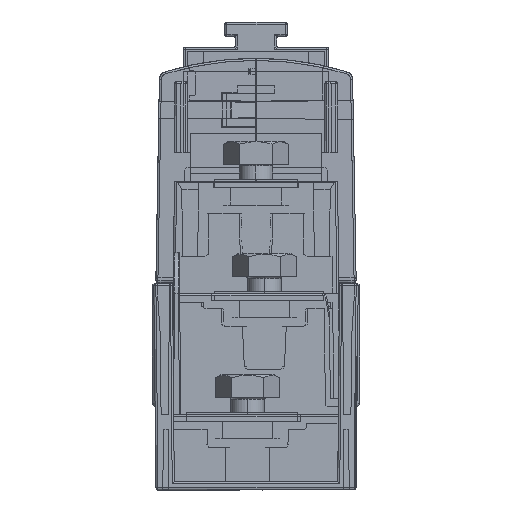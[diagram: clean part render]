
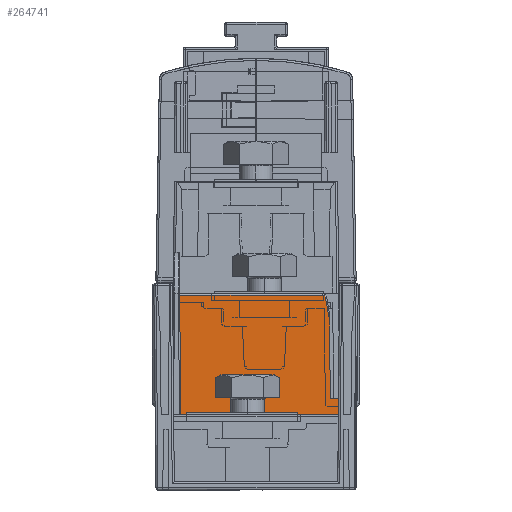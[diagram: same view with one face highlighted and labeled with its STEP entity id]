
A CAD part, left-side view. The second image highlights one B-rep face of the part: STEP entity #264741.
In plain terms, the highlighted planar face has unit normal (-1, 0, 0.009).
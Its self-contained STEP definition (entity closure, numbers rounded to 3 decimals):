
#50141 = VERTEX_POINT ( 'NONE', #272803 ) ;
#50438 = VERTEX_POINT ( 'NONE', #273071 ) ;
#50533 = VERTEX_POINT ( 'NONE', #273197 ) ;
#50587 = VERTEX_POINT ( 'NONE', #273266 ) ;
#50738 = VERTEX_POINT ( 'NONE', #273467 ) ;
#50750 = VERTEX_POINT ( 'NONE', #273499 ) ;
#50776 = VERTEX_POINT ( 'NONE', #273529 ) ;
#67598 = VERTEX_POINT ( 'NONE', #274105 ) ;
#68269 = VERTEX_POINT ( 'NONE', #274631 ) ;
#111235 = PLANE ( 'NONE',  #114538 ) ;
#111293 = FACE_OUTER_BOUND ( 'NONE', #292483, .T. ) ;
#111326 = CARTESIAN_POINT ( 'NONE',  ( -152., 19.8, 28. ) ) ;
#111329 = DIRECTION ( 'NONE',  ( -1., 0., 0.009 ) ) ;
#111332 = DIRECTION ( 'NONE',  ( 0.009, 0., 1. ) ) ;
#111677 = CARTESIAN_POINT ( 'NONE',  ( -152.266, -4.4, -2.5 ) ) ;
#114538 = AXIS2_PLACEMENT_3D ( 'NONE', #111326, #111329, #111332 ) ;
#118057 = CARTESIAN_POINT ( 'NONE',  ( -152.218, -17.8, 3. ) ) ;
#118074 = CARTESIAN_POINT ( 'NONE',  ( -152.218, -22.2, 3. ) ) ;
#118364 = CARTESIAN_POINT ( 'NONE',  ( -152.253, -4.413, -1. ) ) ;
#118775 = CARTESIAN_POINT ( 'NONE',  ( -152.253, -22.165, -1. ) ) ;
#118944 = CARTESIAN_POINT ( 'NONE',  ( -152.266, 0.352, -2.5 ) ) ;
#125745 = LINE ( 'NONE', #125752, #131624 ) ;
#125752 = CARTESIAN_POINT ( 'NONE',  ( -152.22, -22.198, 2.744 ) ) ;
#125756 = DIRECTION ( 'NONE',  ( -0.009, 0.009, -1. ) ) ;
#126855 = CARTESIAN_POINT ( 'NONE',  ( -152.008, -16.65, 27.124 ) ) ;
#126883 = CARTESIAN_POINT ( 'NONE',  ( -152.005, -16.589, 27.474 ) ) ;
#126887 = CARTESIAN_POINT ( 'NONE',  ( -152.003, -16.316, 27.703 ) ) ;
#126892 = CARTESIAN_POINT ( 'NONE',  ( -152.003, -15.961, 27.703 ) ) ;
#126911 = LINE ( 'NONE', #126914, #131961 ) ;
#126914 = CARTESIAN_POINT ( 'NONE',  ( -152.003, 19.8, 27.703 ) ) ;
#126918 = DIRECTION ( 'NONE',  ( 0., 1., 0. ) ) ;
#127716 = LINE ( 'NONE', #127727, #130017 ) ;
#127727 = CARTESIAN_POINT ( 'NONE',  ( -151.999, 8.667, 28.097 ) ) ;
#127731 = DIRECTION ( 'NONE',  ( 0.009, 0.009, 1. ) ) ;
#128753 = LINE ( 'NONE', #128874, #130270 ) ;
#128874 = CARTESIAN_POINT ( 'NONE',  ( -152., 18.3, 28. ) ) ;
#128888 = DIRECTION ( 'NONE',  ( -0.009, -0.009, -1. ) ) ;
#129263 = CARTESIAN_POINT ( 'NONE',  ( -152.267, 0.9, -2.596 ) ) ;
#129267 = CARTESIAN_POINT ( 'NONE',  ( -152.266, 0.352, -2.5 ) ) ;
#129306 = CARTESIAN_POINT ( 'NONE',  ( -152.267, 1.45, -2.647 ) ) ;
#129308 = CARTESIAN_POINT ( 'NONE',  ( -152.267, 2., -2.647 ) ) ;
#129326 = LINE ( 'NONE', #129330, #132427 ) ;
#129330 = CARTESIAN_POINT ( 'NONE',  ( -152.267, -4.399, -2.576 ) ) ;
#129334 = DIRECTION ( 'NONE',  ( 0.009, -0.009, 1. ) ) ;
#129812 = VECTOR ( 'NONE', #132921, 1000. ) ;
#130017 = VECTOR ( 'NONE', #127731, 1000. ) ;
#130270 = VECTOR ( 'NONE', #128888, 1000. ) ;
#131624 = VECTOR ( 'NONE', #125756, 1000. ) ;
#131835 = LINE ( 'NONE', #131905, #136423 ) ;
#131897 = LINE ( 'NONE', #131899, #136424 ) ;
#131899 = CARTESIAN_POINT ( 'NONE',  ( -151.997, -17.579, 28.326 ) ) ;
#131903 = DIRECTION ( 'NONE',  ( 0.009, 0.009, 1. ) ) ;
#131905 = CARTESIAN_POINT ( 'NONE',  ( -152.008, -16.651, 27.122 ) ) ;
#131907 = DIRECTION ( 'NONE',  ( 0.009, 0.174, 0.985 ) ) ;
#131961 = VECTOR ( 'NONE', #126918, 1000. ) ;
#132427 = VECTOR ( 'NONE', #129334, 1000. ) ;
#132918 = LINE ( 'NONE', #132920, #129812 ) ;
#132920 = CARTESIAN_POINT ( 'NONE',  ( -152.253, 66.109, -1. ) ) ;
#132921 = DIRECTION ( 'NONE',  ( 0., -1., 0. ) ) ;
#136423 = VECTOR ( 'NONE', #131907, 1000. ) ;
#136424 = VECTOR ( 'NONE', #131903, 1000. ) ;
#148138 = CARTESIAN_POINT ( 'NONE',  ( -152.267, 2.275, -2.647 ) ) ;
#148141 = CARTESIAN_POINT ( 'NONE',  ( -152.267, 2., -2.647 ) ) ;
#148187 = CARTESIAN_POINT ( 'NONE',  ( -152.267, 2.549, -2.634 ) ) ;
#148191 = CARTESIAN_POINT ( 'NONE',  ( -152.267, 3.099, -2.585 ) ) ;
#148196 = CARTESIAN_POINT ( 'NONE',  ( -152.267, 3.376, -2.547 ) ) ;
#148201 = CARTESIAN_POINT ( 'NONE',  ( -152.266, 3.648, -2.5 ) ) ;
#152297 = B_SPLINE_CURVE_WITH_KNOTS ( 'NONE', 3,
 ( #129267, #129263, #129306, #129308 ),
 .UNSPECIFIED., .F., .F.,
 ( 4, 4 ),
 ( 0.117, 0.118 ),
 .UNSPECIFIED. ) ;
#152995 = B_SPLINE_CURVE_WITH_KNOTS ( 'NONE', 3,
 ( #148141, #148138, #148187, #148191, #148196, #148201 ),
 .UNSPECIFIED., .F., .F.,
 ( 4, 2, 4 ),
 ( 0.118, 0.119, 0.12 ),
 .UNSPECIFIED. ) ;
#173357 = EDGE_CURVE ( 'NONE', #67598, #50141, #209261, .T. ) ;
#173583 = EDGE_CURVE ( 'NONE', #261683, #261494, #204795, .T. ) ;
#175134 = EDGE_CURVE ( 'NONE', #261097, #261090, #196738, .T. ) ;
#175575 = EDGE_CURVE ( 'NONE', #50438, #50587, #195815, .T. ) ;
#195815 = LINE ( 'NONE', #195834, #200873 ) ;
#195834 = CARTESIAN_POINT ( 'NONE',  ( -152.253, 66.109, -1. ) ) ;
#195839 = DIRECTION ( 'NONE',  ( 0., -1., 0. ) ) ;
#196738 = LINE ( 'NONE', #196741, #197413 ) ;
#196741 = CARTESIAN_POINT ( 'NONE',  ( -152.218, 19.8, 3. ) ) ;
#196743 = DIRECTION ( 'NONE',  ( 0., 1., 0. ) ) ;
#197413 = VECTOR ( 'NONE', #196743, 1000. ) ;
#200873 = VECTOR ( 'NONE', #195839, 1000. ) ;
#201634 = EDGE_CURVE ( 'NONE', #68269, #67598, #152995, .T. ) ;
#204795 = LINE ( 'NONE', #204799, #208621 ) ;
#204799 = CARTESIAN_POINT ( 'NONE',  ( -152.266, 8.4, -2.5 ) ) ;
#204851 = DIRECTION ( 'NONE',  ( 0., 1., 0. ) ) ;
#208075 = VECTOR ( 'NONE', #209348, 1000. ) ;
#208621 = VECTOR ( 'NONE', #204851, 1000. ) ;
#209261 = LINE ( 'NONE', #209344, #208075 ) ;
#209344 = CARTESIAN_POINT ( 'NONE',  ( -152.266, 8.4, -2.5 ) ) ;
#209348 = DIRECTION ( 'NONE',  ( 0., 1., 0. ) ) ;
#247196 = EDGE_CURVE ( 'NONE', #261090, #50533, #131897, .T. ) ;
#247200 = EDGE_CURVE ( 'NONE', #50533, #50738, #131835, .T. ) ;
#247965 = EDGE_CURVE ( 'NONE', #261209, #261402, #132918, .T. ) ;
#248118 = EDGE_CURVE ( 'NONE', #50141, #50587, #127716, .T. ) ;
#248246 = EDGE_CURVE ( 'NONE', #50776, #50438, #128753, .T. ) ;
#248883 = EDGE_CURVE ( 'NONE', #261097, #261402, #125745, .T. ) ;
#249059 = EDGE_CURVE ( 'NONE', #50738, #50750, #308810, .T. ) ;
#249067 = EDGE_CURVE ( 'NONE', #50750, #50776, #126911, .T. ) ;
#249482 = EDGE_CURVE ( 'NONE', #261494, #68269, #152297, .T. ) ;
#249486 = EDGE_CURVE ( 'NONE', #261683, #261209, #129326, .T. ) ;
#261090 = VERTEX_POINT ( 'NONE', #118057 ) ;
#261097 = VERTEX_POINT ( 'NONE', #118074 ) ;
#261209 = VERTEX_POINT ( 'NONE', #118364 ) ;
#261402 = VERTEX_POINT ( 'NONE', #118775 ) ;
#261494 = VERTEX_POINT ( 'NONE', #118944 ) ;
#261683 = VERTEX_POINT ( 'NONE', #111677 ) ;
#264741 = ADVANCED_FACE ( 'NONE', ( #111293 ), #111235, .T. ) ;
#272803 = CARTESIAN_POINT ( 'NONE',  ( -152.266, 8.4, -2.5 ) ) ;
#273071 = CARTESIAN_POINT ( 'NONE',  ( -152.253, 18.047, -1. ) ) ;
#273197 = CARTESIAN_POINT ( 'NONE',  ( -152.057, -17.638, 21.52 ) ) ;
#273266 = CARTESIAN_POINT ( 'NONE',  ( -152.253, 8.413, -1. ) ) ;
#273467 = CARTESIAN_POINT ( 'NONE',  ( -152.008, -16.65, 27.124 ) ) ;
#273499 = CARTESIAN_POINT ( 'NONE',  ( -152.003, -15.961, 27.703 ) ) ;
#273529 = CARTESIAN_POINT ( 'NONE',  ( -152.003, 18.297, 27.703 ) ) ;
#274105 = CARTESIAN_POINT ( 'NONE',  ( -152.266, 3.648, -2.5 ) ) ;
#274631 = CARTESIAN_POINT ( 'NONE',  ( -152.267, 2., -2.647 ) ) ;
#276016 = ORIENTED_EDGE ( 'NONE', *, *, #247196, .T. ) ;
#276035 = ORIENTED_EDGE ( 'NONE', *, *, #247200, .T. ) ;
#276063 = ORIENTED_EDGE ( 'NONE', *, *, #249059, .T. ) ;
#276085 = ORIENTED_EDGE ( 'NONE', *, *, #249067, .T. ) ;
#276115 = ORIENTED_EDGE ( 'NONE', *, *, #248246, .T. ) ;
#276147 = ORIENTED_EDGE ( 'NONE', *, *, #175575, .T. ) ;
#276173 = ORIENTED_EDGE ( 'NONE', *, *, #248118, .F. ) ;
#276202 = ORIENTED_EDGE ( 'NONE', *, *, #173357, .F. ) ;
#276220 = ORIENTED_EDGE ( 'NONE', *, *, #201634, .F. ) ;
#276243 = ORIENTED_EDGE ( 'NONE', *, *, #249482, .F. ) ;
#276271 = ORIENTED_EDGE ( 'NONE', *, *, #173583, .F. ) ;
#276297 = ORIENTED_EDGE ( 'NONE', *, *, #249486, .T. ) ;
#276327 = ORIENTED_EDGE ( 'NONE', *, *, #247965, .T. ) ;
#276346 = ORIENTED_EDGE ( 'NONE', *, *, #248883, .F. ) ;
#276370 = ORIENTED_EDGE ( 'NONE', *, *, #175134, .T. ) ;
#292483 = EDGE_LOOP ( 'NONE', ( #276016, #276035, #276063, #276085, #276115, #276147, #276173, #276202, #276220, #276243, #276271, #276297, #276327, #276346, #276370 ) ) ;
#308810 =( BOUNDED_CURVE ( )  B_SPLINE_CURVE ( 3, ( #126855, #126883, #126887, #126892 ),
 .UNSPECIFIED., .F., .T. ) 
 B_SPLINE_CURVE_WITH_KNOTS ( ( 4, 4 ),
 ( 4.887, 6.283 ),
 .UNSPECIFIED. ) 
 CURVE ( )  GEOMETRIC_REPRESENTATION_ITEM ( )  RATIONAL_B_SPLINE_CURVE ( ( 1., 0.844, 0.844, 1. ) ) 
 REPRESENTATION_ITEM ( '' )  );
